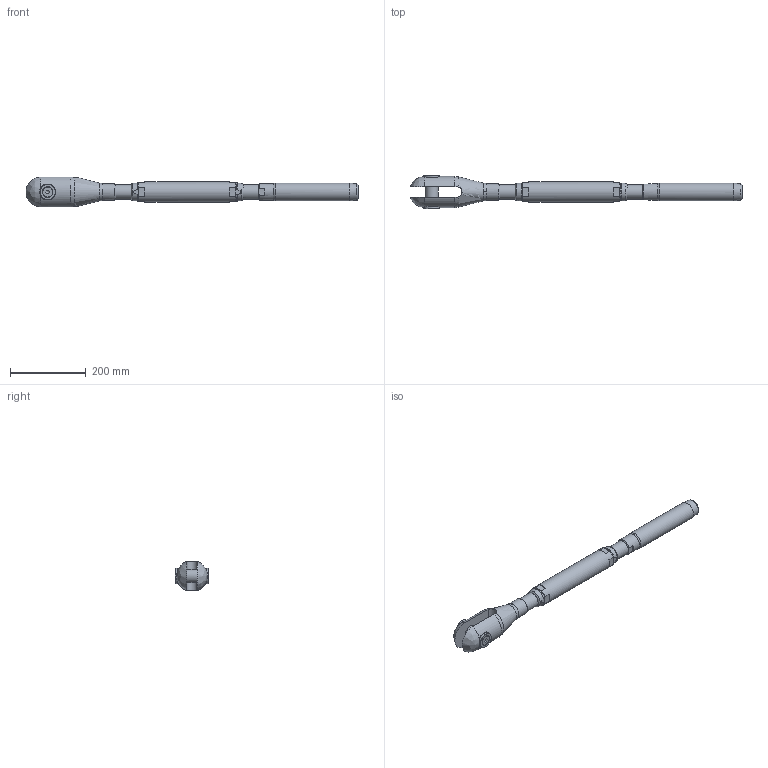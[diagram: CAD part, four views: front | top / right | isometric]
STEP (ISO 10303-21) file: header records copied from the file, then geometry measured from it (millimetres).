
FILE_DESCRIPTION(/* description */ (''),/* implementation_level */ '2;1');
FILE_NAME(/* name */ 'TBC 26_42CrMo4',/* time_stamp */ '2023-05-23T18:16:44+02:00',/* author */ (''),/* organization */ (''),/* preprocessor_version */ 'ST-DEVELOPER v16.5',/* originating_system */ 'Rhino 7.22',/* authorisation */ '');
FILE_SCHEMA (('CONFIG_CONTROL_DESIGN'));
Length unit declared in the file: millimetre
Products named in the file (1): Document
Bounding box: 875.68 x 89.18 x 77.43 mm (x, y, z)
Volume: 1707646 mm3; surface area: 259294.3 mm2
Topology: 10 solids, 10 shells, 140 faces, 383 edges, 265 vertices
Faces by surface type: plane 65, bspline 40, cylinder 35
Full cylindrical faces by diameter (mm): 11.835 x2, 14 x2, 14.5 x2, 26.52 x2, 35 x1, 35.752 x4, 37 x2, 39 x2, 41 x2, 43 x1, 44.5 x2, 46.8 x1, 53 x1
Entity records: 5891 total; most frequent: CARTESIAN_POINT 3462, ORIENTED_EDGE 758, EDGE_CURVE 379, VERTEX_POINT 265, EDGE_LOOP 160, B_SPLINE_CURVE_WITH_KNOTS 157, ADVANCED_FACE 140, FACE_OUTER_BOUND 140
